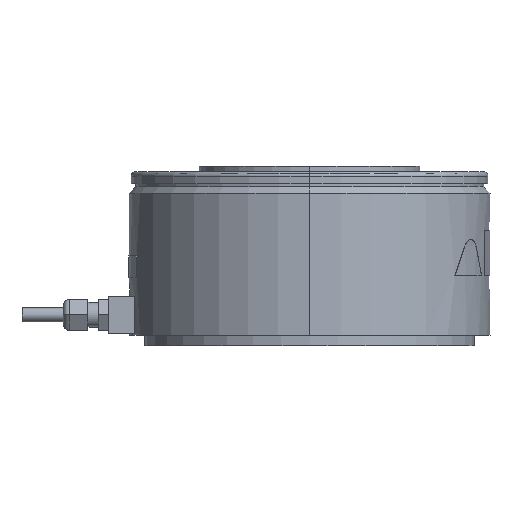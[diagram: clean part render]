
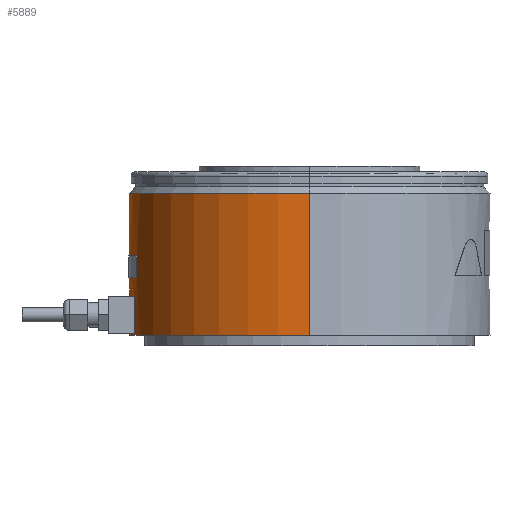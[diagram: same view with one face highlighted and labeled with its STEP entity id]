
A CAD part, left-side view. The second image highlights one B-rep face of the part: STEP entity #5889.
In plain terms, the highlighted cylindrical face has radius 87.5 mm (diameter 175 mm), a partial arc.
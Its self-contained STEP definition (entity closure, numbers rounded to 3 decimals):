
#3810 = CARTESIAN_POINT ( 'NONE',  ( -25., 83.853, -59.236 ) ) ;
#3811 = LINE ( 'NONE', #3810, #4129 ) ;
#3855 = CARTESIAN_POINT ( 'NONE',  ( 21.75, 84.754, 24. ) ) ;
#3932 = DIRECTION ( 'NONE',  ( -1., 0., 0. ) ) ;
#3933 = DIRECTION ( 'NONE',  ( 0., 0., -1. ) ) ;
#3934 = CARTESIAN_POINT ( 'NONE',  ( 0., 0., -59.236 ) ) ;
#3935 = AXIS2_PLACEMENT_3D ( 'NONE', #3934, #3933, #3932 ) ;
#3937 = CYLINDRICAL_SURFACE ( 'NONE', #3935, 87.5 ) ;
#3938 = FACE_OUTER_BOUND ( 'NONE', #5980, .T. ) ;
#3939 = FACE_BOUND ( 'NONE', #5918, .T. ) ;
#3940 = FACE_BOUND ( 'NONE', #5865, .T. ) ;
#3951 = DIRECTION ( 'NONE',  ( 0., 0., 1. ) ) ;
#3952 = VECTOR ( 'NONE', #3951, 1000. ) ;
#3953 = CARTESIAN_POINT ( 'NONE',  ( 25., 83.853, -59.236 ) ) ;
#3954 = LINE ( 'NONE', #3953, #3952 ) ;
#4023 = CARTESIAN_POINT ( 'NONE',  ( -21.75, 84.754, 6. ) ) ;
#4024 = DIRECTION ( 'NONE',  ( 0., 0., 1. ) ) ;
#4025 = VECTOR ( 'NONE', #4024, 1000. ) ;
#4026 = CARTESIAN_POINT ( 'NONE',  ( -21.75, 84.754, -59.236 ) ) ;
#4027 = LINE ( 'NONE', #4026, #4025 ) ;
#4028 = DIRECTION ( 'NONE',  ( -1., 0., 0. ) ) ;
#4029 = DIRECTION ( 'NONE',  ( 0., 0., 1. ) ) ;
#4030 = CARTESIAN_POINT ( 'NONE',  ( 0., 0., 6. ) ) ;
#4031 = AXIS2_PLACEMENT_3D ( 'NONE', #4030, #4029, #4028 ) ;
#4032 = CIRCLE ( 'NONE', #4031, 87.5 ) ;
#4033 = CARTESIAN_POINT ( 'NONE',  ( -21.75, 84.754, 24. ) ) ;
#4039 = CARTESIAN_POINT ( 'NONE',  ( 0., 0., 24. ) ) ;
#4046 = CARTESIAN_POINT ( 'NONE',  ( 21.75, 84.754, 6. ) ) ;
#4047 = DIRECTION ( 'NONE',  ( 0., 0., -1. ) ) ;
#4048 = VECTOR ( 'NONE', #4047, 1000. ) ;
#4049 = CARTESIAN_POINT ( 'NONE',  ( 21.75, 84.754, -59.236 ) ) ;
#4050 = LINE ( 'NONE', #4049, #4048 ) ;
#4069 = CARTESIAN_POINT ( 'NONE',  ( -25., 83.853, 43.5 ) ) ;
#4079 = DIRECTION ( 'NONE',  ( 1., 0., 0. ) ) ;
#4080 = DIRECTION ( 'NONE',  ( 0., 0., -1. ) ) ;
#4081 = CARTESIAN_POINT ( 'NONE',  ( 0., 0., 33. ) ) ;
#4082 = AXIS2_PLACEMENT_3D ( 'NONE', #4081, #4080, #4079 ) ;
#4083 = CIRCLE ( 'NONE', #4082, 87.5 ) ;
#4084 = CARTESIAN_POINT ( 'NONE',  ( -25., 83.853, 33. ) ) ;
#4090 = DIRECTION ( 'NONE',  ( 0., 0., -1. ) ) ;
#4091 = VECTOR ( 'NONE', #4090, 1000. ) ;
#4092 = CARTESIAN_POINT ( 'NONE',  ( 87.5, 0., -59.236 ) ) ;
#4093 = LINE ( 'NONE', #4092, #4091 ) ;
#4094 = CARTESIAN_POINT ( 'NONE',  ( 87.5, 0., 5. ) ) ;
#4095 = DIRECTION ( 'NONE',  ( -1., 0., 0. ) ) ;
#4096 = DIRECTION ( 'NONE',  ( 0., 0., 1. ) ) ;
#4097 = AXIS2_PLACEMENT_3D ( 'NONE', #4039, #4096, #4095 ) ;
#4098 = CIRCLE ( 'NONE', #4097, 87.5 ) ;
#4100 = CARTESIAN_POINT ( 'NONE',  ( 25., 83.853, 43.5 ) ) ;
#4101 = DIRECTION ( 'NONE',  ( -1., 0., 0. ) ) ;
#4102 = DIRECTION ( 'NONE',  ( 0., 0., 1. ) ) ;
#4103 = CARTESIAN_POINT ( 'NONE',  ( 0., 0., 43.5 ) ) ;
#4104 = AXIS2_PLACEMENT_3D ( 'NONE', #4103, #4102, #4101 ) ;
#4105 = CIRCLE ( 'NONE', #4104, 87.5 ) ;
#4106 = CARTESIAN_POINT ( 'NONE',  ( 25., 83.853, 33. ) ) ;
#4128 = DIRECTION ( 'NONE',  ( 0., 0., -1. ) ) ;
#4129 = VECTOR ( 'NONE', #4128, 1000. ) ;
#4258 = DIRECTION ( 'NONE',  ( -1., 0., 0. ) ) ;
#4259 = DIRECTION ( 'NONE',  ( 0., 0., -1. ) ) ;
#4260 = CARTESIAN_POINT ( 'NONE',  ( 0., 0., 5. ) ) ;
#4261 = AXIS2_PLACEMENT_3D ( 'NONE', #4260, #4259, #4258 ) ;
#4262 = CIRCLE ( 'NONE', #4261, 87.5 ) ;
#4273 = DIRECTION ( 'NONE',  ( 0., 0., -1. ) ) ;
#4274 = VECTOR ( 'NONE', #4273, 1000. ) ;
#4275 = CARTESIAN_POINT ( 'NONE',  ( -87.5, 0., -59.236 ) ) ;
#4276 = LINE ( 'NONE', #4275, #4274 ) ;
#4278 = CARTESIAN_POINT ( 'NONE',  ( -87.5, 0., 5. ) ) ;
#5568 = CARTESIAN_POINT ( 'NONE',  ( -87.5, 0., 74. ) ) ;
#5569 = CARTESIAN_POINT ( 'NONE',  ( 87.5, 0., 74. ) ) ;
#5622 = DIRECTION ( 'NONE',  ( -1., 0., 0. ) ) ;
#5623 = DIRECTION ( 'NONE',  ( 0., 0., -1. ) ) ;
#5624 = CARTESIAN_POINT ( 'NONE',  ( 0., 0., 74. ) ) ;
#5625 = AXIS2_PLACEMENT_3D ( 'NONE', #5624, #5623, #5622 ) ;
#5626 = CIRCLE ( 'NONE', #5625, 87.5 ) ;
#5865 = EDGE_LOOP ( 'NONE', ( #5955, #5974, #5941, #5947 ) ) ;
#5866 = VERTEX_POINT ( 'NONE', #3855 ) ;
#5889 = ADVANCED_FACE ( 'NONE', ( #3940, #3939, #3938 ), #3937, .T. ) ;
#5918 = EDGE_LOOP ( 'NONE', ( #5929, #6016, #6001, #5989 ) ) ;
#5920 = EDGE_CURVE ( 'NONE', #6014, #6017, #3954, .T. ) ;
#5929 = ORIENTED_EDGE ( 'NONE', *, *, #5920, .T. ) ;
#5941 = ORIENTED_EDGE ( 'NONE', *, *, #5949, .F. ) ;
#5945 = VERTEX_POINT ( 'NONE', #4033 ) ;
#5947 = ORIENTED_EDGE ( 'NONE', *, *, #5948, .F. ) ;
#5948 = EDGE_CURVE ( 'NONE', #5972, #5950, #4032, .T. ) ;
#5949 = EDGE_CURVE ( 'NONE', #5950, #5945, #4027, .T. ) ;
#5950 = VERTEX_POINT ( 'NONE', #4023 ) ;
#5955 = ORIENTED_EDGE ( 'NONE', *, *, #5970, .F. ) ;
#5970 = EDGE_CURVE ( 'NONE', #5866, #5972, #4050, .T. ) ;
#5972 = VERTEX_POINT ( 'NONE', #4046 ) ;
#5974 = ORIENTED_EDGE ( 'NONE', *, *, #5977, .T. ) ;
#5977 = EDGE_CURVE ( 'NONE', #5866, #5945, #4098, .T. ) ;
#5979 = VERTEX_POINT ( 'NONE', #4094 ) ;
#5980 = EDGE_LOOP ( 'NONE', ( #5982, #5986, #6112, #6100 ) ) ;
#5981 = EDGE_CURVE ( 'NONE', #6773, #5979, #4093, .T. ) ;
#5982 = ORIENTED_EDGE ( 'NONE', *, *, #6779, .T. ) ;
#5986 = ORIENTED_EDGE ( 'NONE', *, *, #5981, .T. ) ;
#5988 = VERTEX_POINT ( 'NONE', #4084 ) ;
#5989 = ORIENTED_EDGE ( 'NONE', *, *, #5990, .T. ) ;
#5990 = EDGE_CURVE ( 'NONE', #5988, #6014, #4083, .T. ) ;
#6000 = VERTEX_POINT ( 'NONE', #4069 ) ;
#6001 = ORIENTED_EDGE ( 'NONE', *, *, #6002, .T. ) ;
#6002 = EDGE_CURVE ( 'NONE', #6000, #5988, #3811, .T. ) ;
#6014 = VERTEX_POINT ( 'NONE', #4106 ) ;
#6015 = EDGE_CURVE ( 'NONE', #6017, #6000, #4105, .T. ) ;
#6016 = ORIENTED_EDGE ( 'NONE', *, *, #6015, .T. ) ;
#6017 = VERTEX_POINT ( 'NONE', #4100 ) ;
#6100 = ORIENTED_EDGE ( 'NONE', *, *, #6105, .F. ) ;
#6101 = VERTEX_POINT ( 'NONE', #4278 ) ;
#6105 = EDGE_CURVE ( 'NONE', #6774, #6101, #4276, .T. ) ;
#6111 = EDGE_CURVE ( 'NONE', #6101, #5979, #4262, .T. ) ;
#6112 = ORIENTED_EDGE ( 'NONE', *, *, #6111, .F. ) ;
#6773 = VERTEX_POINT ( 'NONE', #5569 ) ;
#6774 = VERTEX_POINT ( 'NONE', #5568 ) ;
#6779 = EDGE_CURVE ( 'NONE', #6774, #6773, #5626, .T. ) ;
